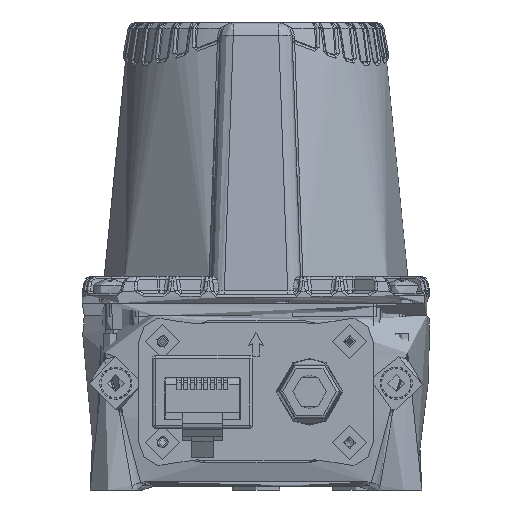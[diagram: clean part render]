
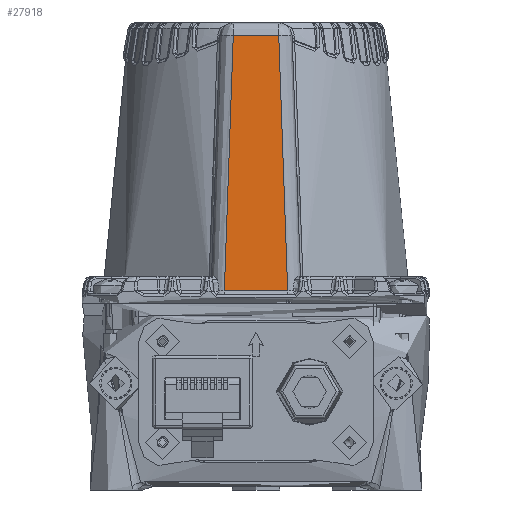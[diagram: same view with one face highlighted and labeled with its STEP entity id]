
A CAD part, front view. The second image highlights one B-rep face of the part: STEP entity #27918.
In plain terms, the highlighted planar face has unit normal (0, -0.999, 0.035).
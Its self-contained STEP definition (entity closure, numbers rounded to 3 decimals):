
#27918=ADVANCED_FACE('',(#39336),#34047,.F.);
#34047=PLANE('',#145556);
#39336=FACE_OUTER_BOUND('',#46626,.T.);
#46626=EDGE_LOOP('',(#81681,#81682,#81683,#81684));
#54345=LINE('',#255575,#62578);
#54346=LINE('',#255578,#62579);
#54347=LINE('',#255580,#62580);
#54348=LINE('',#255582,#62581);
#62578=VECTOR('',#162049,1.);
#62579=VECTOR('',#162050,1.);
#62580=VECTOR('',#162051,1.);
#62581=VECTOR('',#162052,1.);
#81681=ORIENTED_EDGE('',*,*,#123462,.T.);
#81682=ORIENTED_EDGE('',*,*,#123463,.T.);
#81683=ORIENTED_EDGE('',*,*,#123464,.T.);
#81684=ORIENTED_EDGE('',*,*,#123465,.T.);
#109396=VERTEX_POINT('',#255576);
#109397=VERTEX_POINT('',#255577);
#109398=VERTEX_POINT('',#255579);
#109399=VERTEX_POINT('',#255581);
#123462=EDGE_CURVE('',#109396,#109397,#54345,.T.);
#123463=EDGE_CURVE('',#109397,#109398,#54346,.T.);
#123464=EDGE_CURVE('',#109398,#109399,#54347,.T.);
#123465=EDGE_CURVE('',#109399,#109396,#54348,.T.);
#145556=AXIS2_PLACEMENT_3D('',#255583,#162053,#162054);
#162049=DIRECTION('',(-0.035,-0.034,-0.999));
#162050=DIRECTION('',(1.,0.,0.));
#162051=DIRECTION('',(-0.035,0.034,0.999));
#162052=DIRECTION('',(-1.,0.,0.));
#162053=DIRECTION('',(0.,0.999,-0.034));
#162054=DIRECTION('',(0.,-0.034,-0.999));
#255575=CARTESIAN_POINT('',(-4.659,-24.619,-22.536));
#255576=CARTESIAN_POINT('',(-3.405,-23.38,13.369));
#255577=CARTESIAN_POINT('',(-4.741,-24.7,-24.882));
#255578=CARTESIAN_POINT('',(4.758,-24.7,-24.882));
#255579=CARTESIAN_POINT('',(4.741,-24.7,-24.882));
#255580=CARTESIAN_POINT('',(3.34,-23.316,15.23));
#255581=CARTESIAN_POINT('',(3.405,-23.38,13.369));
#255582=CARTESIAN_POINT('',(0.,-23.38,13.369));
#255583=CARTESIAN_POINT('',(0.,-24.625,-22.698));
